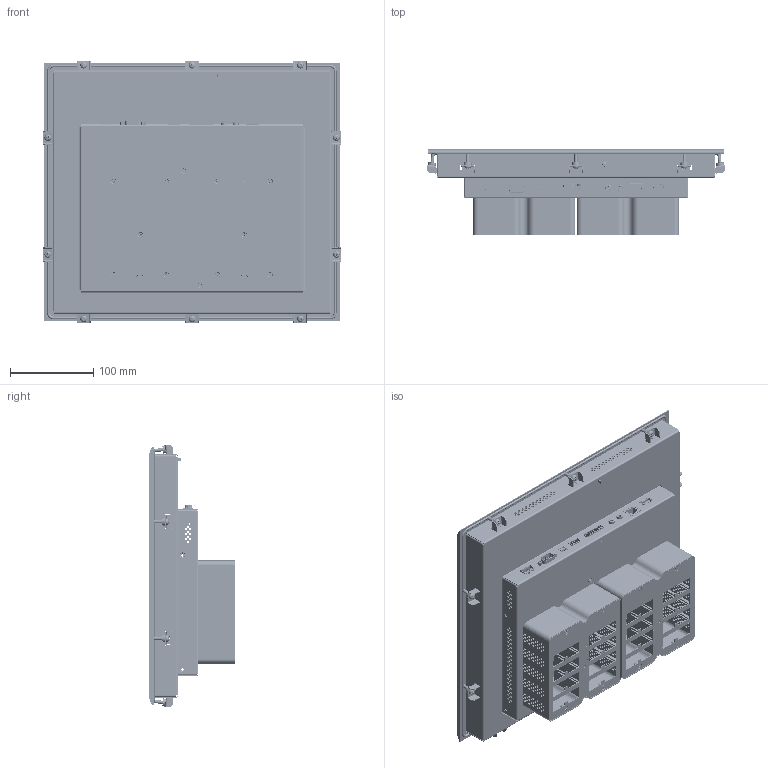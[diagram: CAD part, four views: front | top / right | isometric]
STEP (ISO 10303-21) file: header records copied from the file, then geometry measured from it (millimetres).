
FILE_DESCRIPTION (( 'STEP AP214' ), '1' );
FILE_NAME ('ﾏﾋﾊ15-02 ﾌ瑕褪.STEP', '2025-05-24T22:16:29', ( '' ), ( '' ), 'SwSTEP 2.0', 'SolidWorks 2021', '' );
FILE_SCHEMA (( 'AUTOMOTIVE_DESIGN' ));
Length unit declared in the file: millimetre
Products named in the file (1): ﾏﾋﾊ15-02 ﾌ瑕褪
Bounding box: 357.45 x 102.3 x 315.45 mm (x, y, z)
Surface area: 649121 mm2 (no closed solid volume)
Topology: 0 solids, 241 shells, 3655 faces, 19045 edges, 15344 vertices
Faces by surface type: cylinder 1947, plane 1489, cone 106, bspline 65, torus 48
Entity records: 241415 total; most frequent: CARTESIAN_POINT 54262, DIRECTION 28879, ORIENTED_EDGE 26871, EDGE_CURVE 19033, VERTEX_POINT 15344, VECTOR 9921, LINE 9921, AXIS2_PLACEMENT_3D 9479
